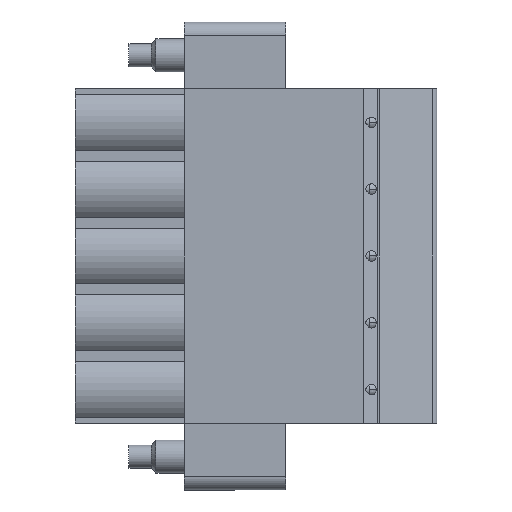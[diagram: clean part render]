
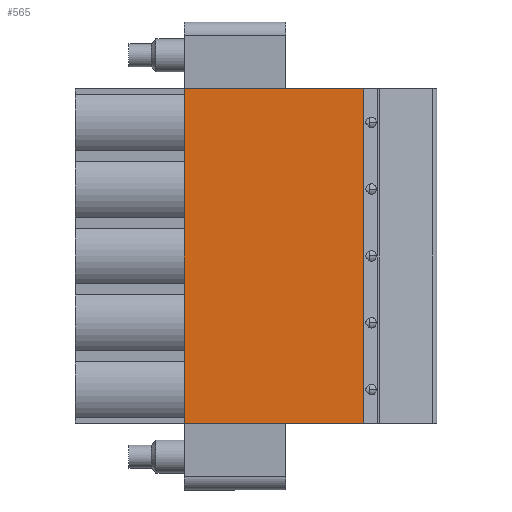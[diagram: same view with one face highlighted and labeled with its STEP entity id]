
A CAD part, front view. The second image highlights one B-rep face of the part: STEP entity #565.
In plain terms, the highlighted planar face has unit normal (0, -1, 0).
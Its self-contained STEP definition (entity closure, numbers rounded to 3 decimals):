
#76 = LINE ( 'NONE', #97, #9134 ) ;
#97 = CARTESIAN_POINT ( 'NONE',  ( 6.8, 0., -25.4 ) ) ;
#565 = ADVANCED_FACE ( 'NONE', ( #8507 ), #11297, .T. ) ;
#926 = CARTESIAN_POINT ( 'NONE',  ( 13.6, 0., -12.7 ) ) ;
#1143 = EDGE_LOOP ( 'NONE', ( #9859, #3206, #3570, #2704 ) ) ;
#1246 = LINE ( 'NONE', #1597, #1384 ) ;
#1384 = VECTOR ( 'NONE', #8506, 1000. ) ;
#1597 = CARTESIAN_POINT ( 'NONE',  ( 0., 0., -12.7 ) ) ;
#2368 = CARTESIAN_POINT ( 'NONE',  ( 0., 0., 0. ) ) ;
#2408 = CARTESIAN_POINT ( 'NONE',  ( 13.6, 0., -25.4 ) ) ;
#2704 = ORIENTED_EDGE ( 'NONE', *, *, #11118, .F. ) ;
#3206 = ORIENTED_EDGE ( 'NONE', *, *, #4305, .T. ) ;
#3570 = ORIENTED_EDGE ( 'NONE', *, *, #4287, .F. ) ;
#3905 = LINE ( 'NONE', #6298, #4441 ) ;
#4287 = EDGE_CURVE ( 'NONE', #5087, #10436, #8996, .T. ) ;
#4305 = EDGE_CURVE ( 'NONE', #9093, #10436, #76, .T. ) ;
#4441 = VECTOR ( 'NONE', #8184, 1000. ) ;
#5011 = CARTESIAN_POINT ( 'NONE',  ( 13.6, 0., 0. ) ) ;
#5087 = VERTEX_POINT ( 'NONE', #5011 ) ;
#5223 = DIRECTION ( 'NONE',  ( -1., 0., 0. ) ) ;
#6136 = DIRECTION ( 'NONE',  ( 0., -1., 0. ) ) ;
#6258 = DIRECTION ( 'NONE',  ( 1., 0., 0. ) ) ;
#6298 = CARTESIAN_POINT ( 'NONE',  ( 9.56, 0., 0. ) ) ;
#6693 = EDGE_CURVE ( 'NONE', #7442, #9093, #1246, .T. ) ;
#7442 = VERTEX_POINT ( 'NONE', #2368 ) ;
#7899 = VECTOR ( 'NONE', #11306, 1000. ) ;
#8184 = DIRECTION ( 'NONE',  ( 1., 0., 0. ) ) ;
#8506 = DIRECTION ( 'NONE',  ( 0., 0., -1. ) ) ;
#8507 = FACE_OUTER_BOUND ( 'NONE', #1143, .T. ) ;
#8677 = CARTESIAN_POINT ( 'NONE',  ( 13.6, 0., 0. ) ) ;
#8941 = AXIS2_PLACEMENT_3D ( 'NONE', #8677, #6136, #5223 ) ;
#8996 = LINE ( 'NONE', #926, #7899 ) ;
#9093 = VERTEX_POINT ( 'NONE', #9458 ) ;
#9134 = VECTOR ( 'NONE', #6258, 1000. ) ;
#9458 = CARTESIAN_POINT ( 'NONE',  ( 0., 0., -25.4 ) ) ;
#9859 = ORIENTED_EDGE ( 'NONE', *, *, #6693, .T. ) ;
#10436 = VERTEX_POINT ( 'NONE', #2408 ) ;
#11118 = EDGE_CURVE ( 'NONE', #7442, #5087, #3905, .T. ) ;
#11297 = PLANE ( 'NONE',  #8941 ) ;
#11306 = DIRECTION ( 'NONE',  ( 0., 0., -1. ) ) ;
